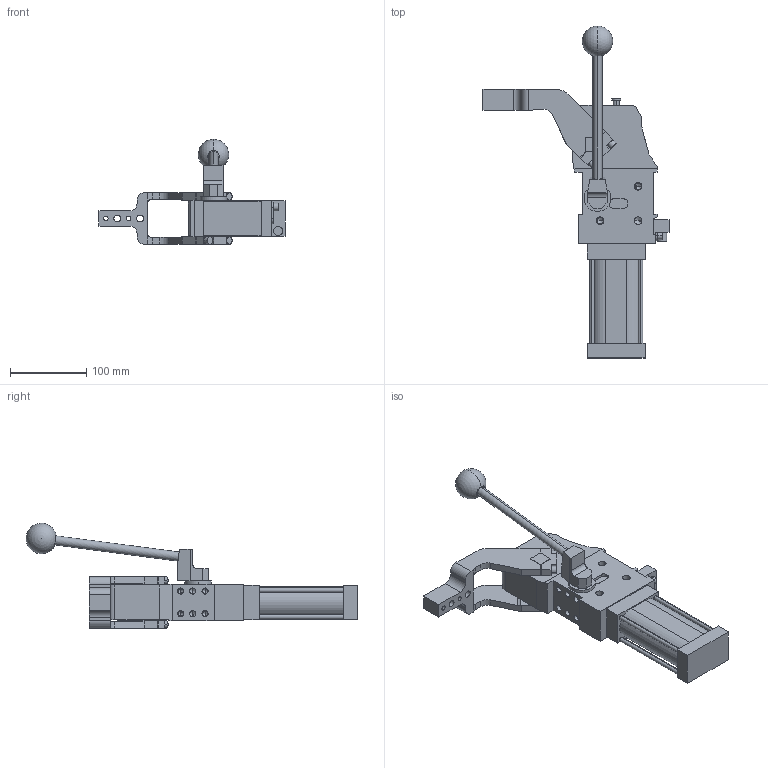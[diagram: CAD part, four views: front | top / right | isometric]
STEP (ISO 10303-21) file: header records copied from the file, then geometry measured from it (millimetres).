
FILE_DESCRIPTION (( 'STEP AP214' ), '1' );
FILE_NAME ('cplm50lav3ci1g_135.STEP', '2023-01-26T13:58:08', ( '' ), ( '' ), 'SwSTEP 2.0', 'SolidWorks 2022', '' );
FILE_SCHEMA (( 'AUTOMOTIVE_DESIGN' ));
Length unit declared in the file: millimetre
Products named in the file (5): leva_cx_offset_45_cpl50; comando_manuale_cplm_50; blocchetto_VEP_0; meccanica_cplm_50; cplm50lav3ci1g_135
Assembly tree (4 placements, depth 2):
  cplm50lav3ci1g_135
    meccanica_cplm_50
    blocchetto_VEP_0
    leva_cx_offset_45_cpl50
    comando_manuale_cplm_50
Bounding box: 244.5 x 436.23 x 138.5 mm (x, y, z)
Volume: 1472648.4 mm3; surface area: 183543.8 mm2
Topology: 4 solids, 4 shells, 433 faces, 1114 edges, 695 vertices
Faces by surface type: plane 214, cylinder 167, cone 50, sphere 2
Entity records: 14437 total; most frequent: DIRECTION 2293, CARTESIAN_POINT 2271, ORIENTED_EDGE 2126, EDGE_CURVE 1063, AXIS2_PLACEMENT_3D 796, VECTOR 701, LINE 701, VERTEX_POINT 692
